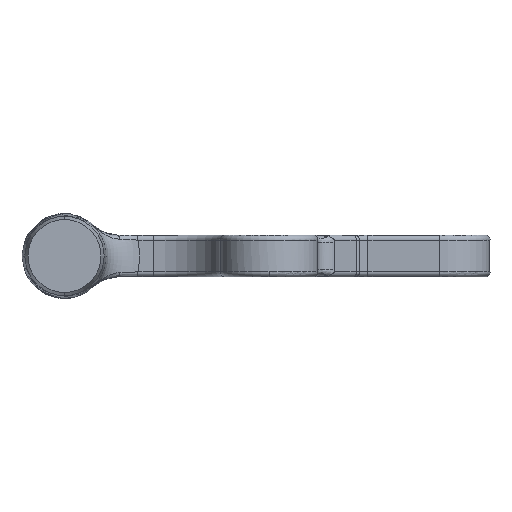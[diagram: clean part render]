
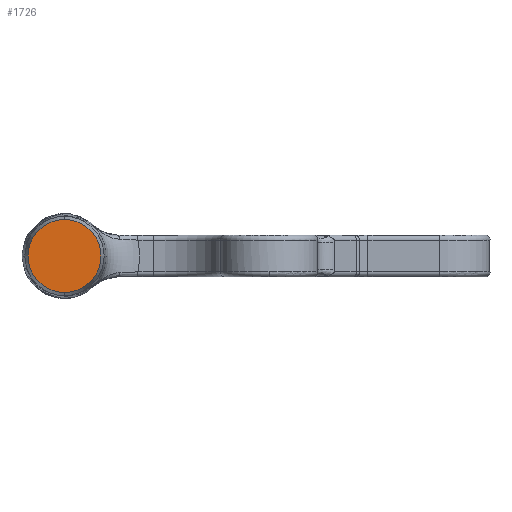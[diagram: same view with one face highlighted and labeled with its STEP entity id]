
A CAD part, left-side view. The second image highlights one B-rep face of the part: STEP entity #1726.
In plain terms, the highlighted planar face has unit normal (-1, 0, 0).
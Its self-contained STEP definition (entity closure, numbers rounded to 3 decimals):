
#276 = CARTESIAN_POINT ( 'NONE',  ( -263.48, 150.98, 9.152 ) ) ;
#451 = CIRCLE ( 'NONE', #6179, 21.763 ) ;
#648 = FACE_OUTER_BOUND ( 'NONE', #2455, .T. ) ;
#1146 = DIRECTION ( 'NONE',  ( 1., 0., 0. ) ) ;
#1320 = DIRECTION ( 'NONE',  ( 0., 0., 1. ) ) ;
#1726 = ADVANCED_FACE ( 'NONE', ( #648 ), #2573, .F. ) ;
#1811 = EDGE_CURVE ( 'NONE', #2871, #3892, #3678, .T. ) ;
#2133 = CARTESIAN_POINT ( 'NONE',  ( -263.48, 150.986, -12.605 ) ) ;
#2455 = EDGE_LOOP ( 'NONE', ( #5560, #6149 ) ) ;
#2573 = PLANE ( 'NONE',  #2815 ) ;
#2706 = DIRECTION ( 'NONE',  ( -1., 0., 0. ) ) ;
#2736 = DIRECTION ( 'NONE',  ( 0., 0., 1. ) ) ;
#2815 = AXIS2_PLACEMENT_3D ( 'NONE', #2133, #1146, #5694 ) ;
#2871 = VERTEX_POINT ( 'NONE', #3941 ) ;
#3296 = CARTESIAN_POINT ( 'NONE',  ( -263.48, 150.98, -12.611 ) ) ;
#3540 = EDGE_CURVE ( 'NONE', #3892, #2871, #451, .T. ) ;
#3678 = CIRCLE ( 'NONE', #6095, 21.763 ) ;
#3892 = VERTEX_POINT ( 'NONE', #276 ) ;
#3941 = CARTESIAN_POINT ( 'NONE',  ( -263.48, 150.98, -34.374 ) ) ;
#4975 = CARTESIAN_POINT ( 'NONE',  ( -263.48, 150.98, -12.611 ) ) ;
#5560 = ORIENTED_EDGE ( 'NONE', *, *, #1811, .T. ) ;
#5694 = DIRECTION ( 'NONE',  ( 0., 0., -1. ) ) ;
#5868 = DIRECTION ( 'NONE',  ( -1., 0., 0. ) ) ;
#6095 = AXIS2_PLACEMENT_3D ( 'NONE', #3296, #2706, #2736 ) ;
#6149 = ORIENTED_EDGE ( 'NONE', *, *, #3540, .T. ) ;
#6179 = AXIS2_PLACEMENT_3D ( 'NONE', #4975, #5868, #1320 ) ;
